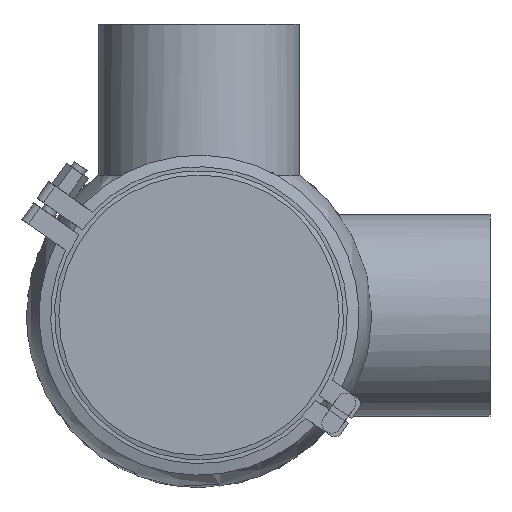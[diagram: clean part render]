
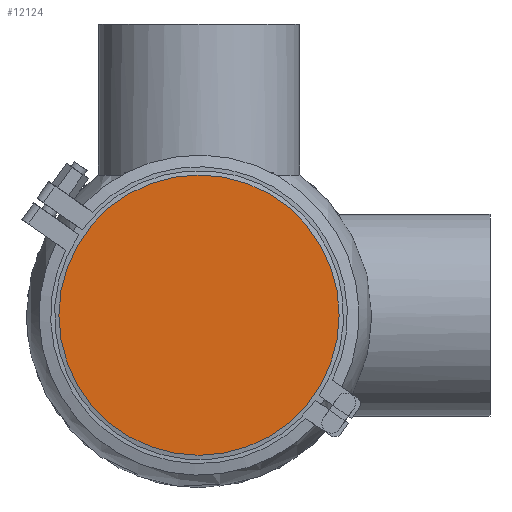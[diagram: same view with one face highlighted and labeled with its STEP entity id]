
A CAD part, front view. The second image highlights one B-rep face of the part: STEP entity #12124.
In plain terms, the highlighted planar face has unit normal (0, -1, 0).
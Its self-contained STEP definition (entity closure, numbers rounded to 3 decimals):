
#202 = FACE_OUTER_BOUND ( 'NONE', #11378, .T. ) ;
#377 = CARTESIAN_POINT ( 'NONE',  ( 0., 0., 0. ) ) ;
#1338 = ORIENTED_EDGE ( 'NONE', *, *, #5802, .F. ) ;
#3477 = CARTESIAN_POINT ( 'NONE',  ( -72.25, 0., 0. ) ) ;
#3541 = CARTESIAN_POINT ( 'NONE',  ( 0., 0., 72.25 ) ) ;
#5362 = VERTEX_POINT ( 'NONE', #3541 ) ;
#5802 = EDGE_CURVE ( 'NONE', #5362, #5362, #12804, .T. ) ;
#6586 = PLANE ( 'NONE',  #10711 ) ;
#6985 = DIRECTION ( 'NONE',  ( 0., 1., 0. ) ) ;
#9663 = DIRECTION ( 'NONE',  ( 0., -1., 0. ) ) ;
#10711 = AXIS2_PLACEMENT_3D ( 'NONE', #3477, #9663, #12859 ) ;
#11378 = EDGE_LOOP ( 'NONE', ( #1338 ) ) ;
#12124 = ADVANCED_FACE ( 'NONE', ( #202 ), #6586, .T. ) ;
#12804 = CIRCLE ( 'NONE', #20008, 72.25 ) ;
#12859 = DIRECTION ( 'NONE',  ( 0., 0., -1. ) ) ;
#13469 = DIRECTION ( 'NONE',  ( 0., 0., 1. ) ) ;
#20008 = AXIS2_PLACEMENT_3D ( 'NONE', #377, #6985, #13469 ) ;
